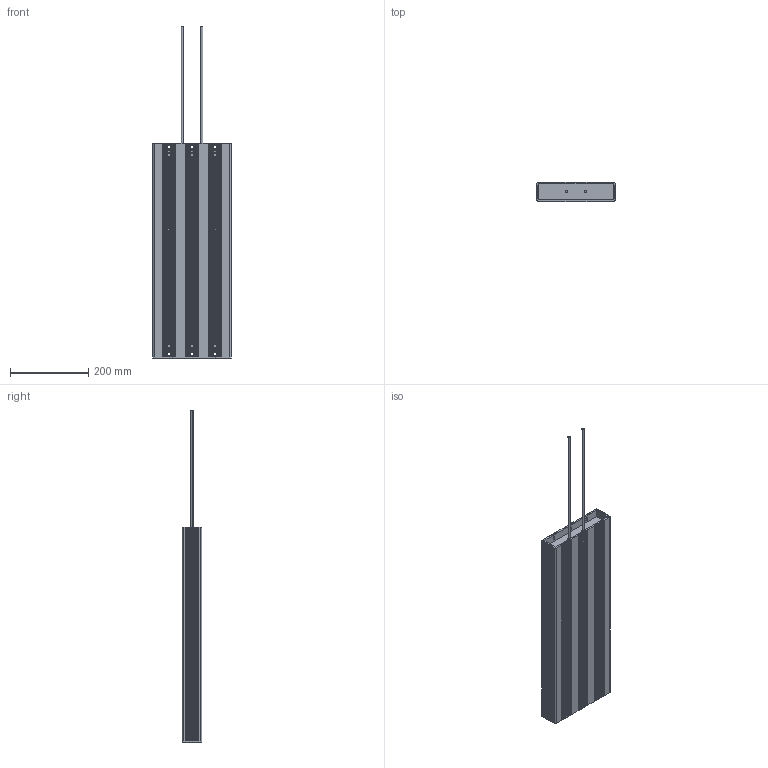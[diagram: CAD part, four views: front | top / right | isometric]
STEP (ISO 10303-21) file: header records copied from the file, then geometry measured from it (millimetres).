
FILE_DESCRIPTION (( 'STEP AP203' ), '1' );
FILE_NAME ('Ðåçèñòîð òîðìîçíîé _ IBRA-50-7000-IP54.STEP', '2025-03-28T05:58:22', ( '' ), ( '' ), 'SwSTEP 2.0', 'SolidWorks 2021', '' );
FILE_SCHEMA (( 'CONFIG_CONTROL_DESIGN' ));
Length unit declared in the file: millimetre
Products named in the file (1): Ðåçèñòîð òîðìîçíîé _ IBRA-50-7000-IP54
Bounding box: 200 x 50 x 850 mm (x, y, z)
Volume: 5112025.1 mm3; surface area: 385465.2 mm2
Topology: 1 solids, 1 shells, 854 faces, 2484 edges, 1624 vertices
Faces by surface type: plane 534, cylinder 320
Entity records: 28897 total; most frequent: CARTESIAN_POINT 6115, ORIENTED_EDGE 4968, DIRECTION 4546, EDGE_CURVE 2484, LINE 1748, VECTOR 1748, VERTEX_POINT 1624, AXIS2_PLACEMENT_3D 1399
